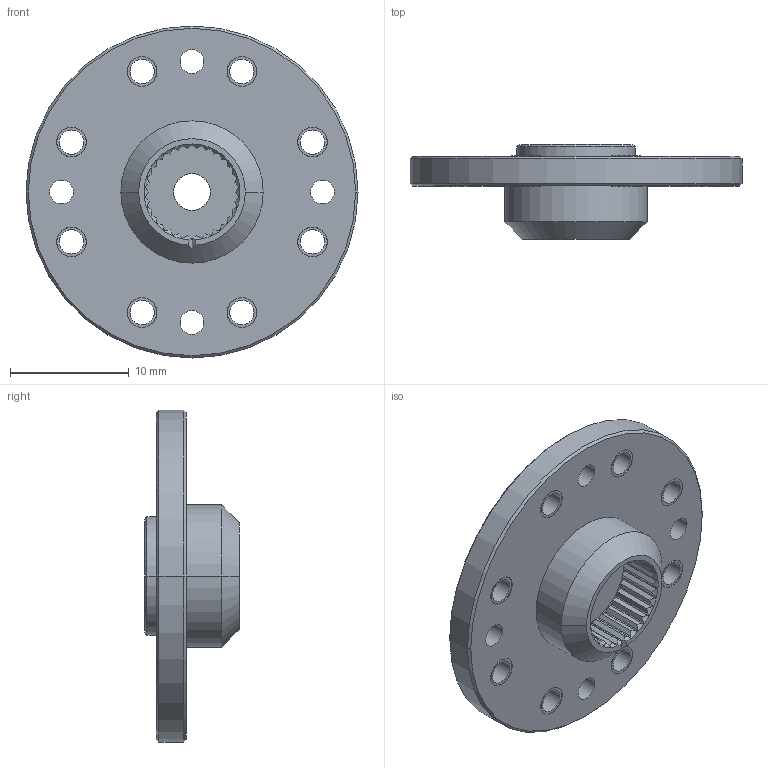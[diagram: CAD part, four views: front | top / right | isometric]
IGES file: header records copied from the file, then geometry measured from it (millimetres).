
Start section:  PTC IGES file: HN05-T1.igs
Global section: file name: HN05-T1.igs; native system: Pro/ENGINEER by Parametric Technology Corporation; preprocessor: 2009060; author: Andy; organization: Unknown; date: 20120113.120803; units: millimetre
Bounding box: 28 x 8 x 28 mm (x, y, z)
Volume: 1706.3 mm3; surface area: 3301.1 mm2
Topology: 1 solids, 9 shells, 211 faces, 740 edges, 691 vertices
Faces by surface type: revolution 143, bspline 68
